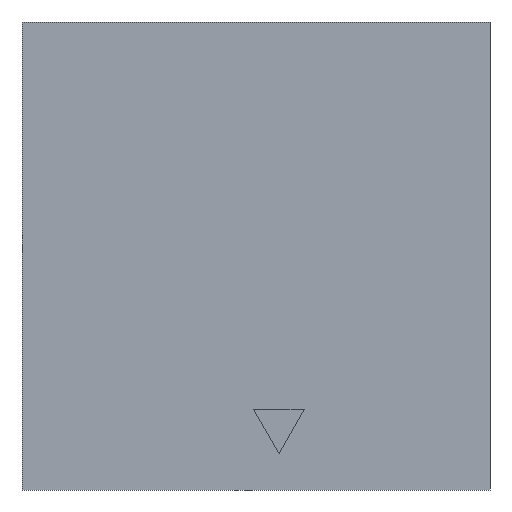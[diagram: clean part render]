
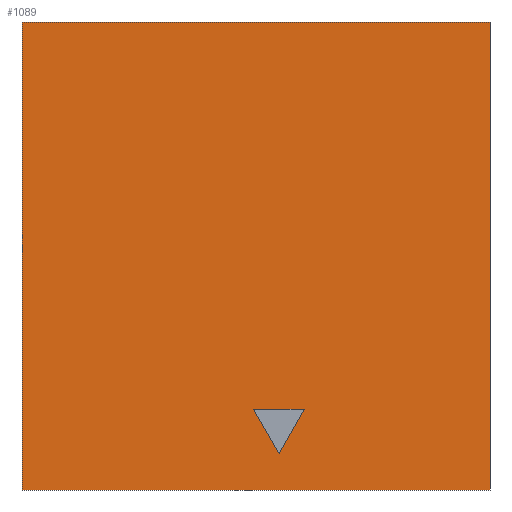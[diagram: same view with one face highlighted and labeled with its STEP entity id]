
A CAD part, front view. The second image highlights one B-rep face of the part: STEP entity #1089.
In plain terms, the highlighted planar face has unit normal (0, -1, 0).
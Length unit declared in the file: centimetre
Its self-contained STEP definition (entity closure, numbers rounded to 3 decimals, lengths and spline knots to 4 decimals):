
#41 = VECTOR ( 'NONE', #1005, 100. ) ;
#47 = LINE ( 'NONE', #587, #624 ) ;
#73 = CARTESIAN_POINT ( 'NONE',  ( 549.2818, 0., 78.6303 ) ) ;
#153 = AXIS2_PLACEMENT_3D ( 'NONE', #386, #295, #471 ) ;
#168 = DIRECTION ( 'NONE',  ( 0.496, 0., 0.869 ) ) ;
#236 = EDGE_LOOP ( 'NONE', ( #686, #657, #474, #1052 ) ) ;
#245 = CARTESIAN_POINT ( 'NONE',  ( 494.6491, 0., 172.7115 ) ) ;
#258 = VERTEX_POINT ( 'NONE', #274 ) ;
#262 = DIRECTION ( 'NONE',  ( 0., 0., -1. ) ) ;
#274 = CARTESIAN_POINT ( 'NONE',  ( 1000., 0., 0. ) ) ;
#284 = CARTESIAN_POINT ( 'NONE',  ( 1000., 0., 1000. ) ) ;
#295 = DIRECTION ( 'NONE',  ( 0., 1., 0. ) ) ;
#325 = ORIENTED_EDGE ( 'NONE', *, *, #504, .F. ) ;
#335 = VECTOR ( 'NONE', #168, 100. ) ;
#338 = FACE_BOUND ( 'NONE', #855, .T. ) ;
#343 = EDGE_CURVE ( 'NONE', #1130, #258, #366, .T. ) ;
#366 = LINE ( 'NONE', #284, #41 ) ;
#373 = VECTOR ( 'NONE', #448, 100. ) ;
#386 = CARTESIAN_POINT ( 'NONE',  ( 0., 0., 1000. ) ) ;
#398 = ORIENTED_EDGE ( 'NONE', *, *, #415, .F. ) ;
#415 = EDGE_CURVE ( 'NONE', #651, #933, #47, .T. ) ;
#448 = DIRECTION ( 'NONE',  ( 1., 0., 0. ) ) ;
#452 = VECTOR ( 'NONE', #908, 100. ) ;
#471 = DIRECTION ( 'NONE',  ( 0., 0., 1. ) ) ;
#474 = ORIENTED_EDGE ( 'NONE', *, *, #523, .F. ) ;
#483 = DIRECTION ( 'NONE',  ( -1., 0., 0. ) ) ;
#487 = CARTESIAN_POINT ( 'NONE',  ( 602.9698, 0., 172.7115 ) ) ;
#504 = EDGE_CURVE ( 'NONE', #933, #941, #977, .T. ) ;
#523 = EDGE_CURVE ( 'NONE', #992, #1130, #642, .T. ) ;
#525 = CARTESIAN_POINT ( 'NONE',  ( 0., 0., 1000. ) ) ;
#587 = CARTESIAN_POINT ( 'NONE',  ( 602.9698, 0., 172.7115 ) ) ;
#597 = CARTESIAN_POINT ( 'NONE',  ( 0., 0., 0. ) ) ;
#609 = PLANE ( 'NONE',  #153 ) ;
#617 = CARTESIAN_POINT ( 'NONE',  ( 0., 0., 1000. ) ) ;
#624 = VECTOR ( 'NONE', #483, 100. ) ;
#630 = CARTESIAN_POINT ( 'NONE',  ( 0., 0., 1000. ) ) ;
#636 = DIRECTION ( 'NONE',  ( 1., 0., 0. ) ) ;
#642 = LINE ( 'NONE', #630, #373 ) ;
#651 = VERTEX_POINT ( 'NONE', #487 ) ;
#657 = ORIENTED_EDGE ( 'NONE', *, *, #343, .F. ) ;
#659 = CARTESIAN_POINT ( 'NONE',  ( 1000., 0., 1000. ) ) ;
#663 = CARTESIAN_POINT ( 'NONE',  ( 0., 0., 0. ) ) ;
#686 = ORIENTED_EDGE ( 'NONE', *, *, #1125, .T. ) ;
#690 = VERTEX_POINT ( 'NONE', #597 ) ;
#714 = LINE ( 'NONE', #73, #335 ) ;
#716 = EDGE_CURVE ( 'NONE', #992, #690, #958, .T. ) ;
#748 = LINE ( 'NONE', #663, #790 ) ;
#786 = CARTESIAN_POINT ( 'NONE',  ( 549.2818, 0., 78.6303 ) ) ;
#790 = VECTOR ( 'NONE', #636, 100. ) ;
#855 = EDGE_LOOP ( 'NONE', ( #398, #1069, #325 ) ) ;
#908 = DIRECTION ( 'NONE',  ( 0.502, 0., -0.865 ) ) ;
#933 = VERTEX_POINT ( 'NONE', #245 ) ;
#935 = VECTOR ( 'NONE', #262, 100. ) ;
#941 = VERTEX_POINT ( 'NONE', #786 ) ;
#958 = LINE ( 'NONE', #525, #935 ) ;
#977 = LINE ( 'NONE', #1080, #452 ) ;
#992 = VERTEX_POINT ( 'NONE', #617 ) ;
#1005 = DIRECTION ( 'NONE',  ( 0., 0., -1. ) ) ;
#1006 = EDGE_CURVE ( 'NONE', #941, #651, #714, .T. ) ;
#1049 = FACE_OUTER_BOUND ( 'NONE', #236, .T. ) ;
#1052 = ORIENTED_EDGE ( 'NONE', *, *, #716, .T. ) ;
#1069 = ORIENTED_EDGE ( 'NONE', *, *, #1006, .F. ) ;
#1080 = CARTESIAN_POINT ( 'NONE',  ( 494.6491, 0., 172.7115 ) ) ;
#1089 = ADVANCED_FACE ( 'NONE', ( #338, #1049 ), #609, .F. ) ;
#1125 = EDGE_CURVE ( 'NONE', #690, #258, #748, .T. ) ;
#1130 = VERTEX_POINT ( 'NONE', #659 ) ;
